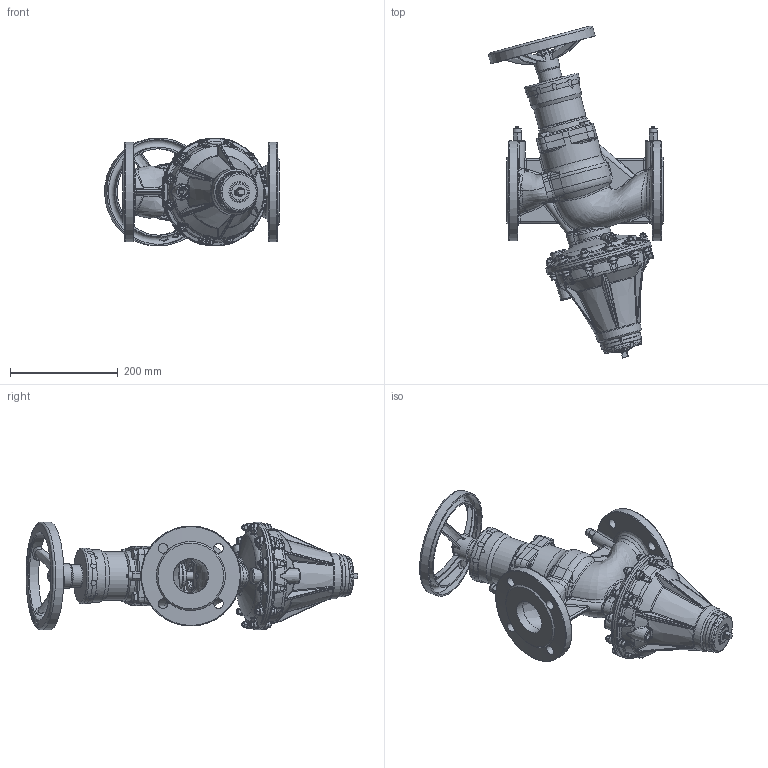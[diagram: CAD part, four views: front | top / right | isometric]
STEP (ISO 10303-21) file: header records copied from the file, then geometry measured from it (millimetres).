
FILE_DESCRIPTION (( 'STEP AP203' ), '1' );
FILE_NAME ('MH06516.STEP', '2013-01-17T16:17:11', ( 'luca.saino' ), ( 'Hewlett-Packard Company' ), 'SwSTEP 2.0', 'SolidWorks 2012', '' );
FILE_SCHEMA (( 'CONFIG_CONTROL_DESIGN' ));
Length unit declared in the file: millimetre
Products named in the file (1): MH06516
Bounding box: 323.7 x 614.82 x 199.79 mm (x, y, z)
Volume: 6414413 mm3; surface area: 607069.1 mm2
Topology: 1 solids, 73 shells, 3084 faces, 7247 edges, 4366 vertices
Faces by surface type: bspline 982, plane 853, cylinder 533, cone 461, torus 219, sphere 36
Full cylindrical faces by diameter (mm): 1.7 x2, 4 x1, 5 x5, 6 x24, 6.5 x14, 7 x12, 8 x1, 8.5 x3, 10 x12, 11 x12, 11.44 x2, 13.2 x1, 14 x1, 14.96 x1, 15 x5, 16 x2, 18 x8, 20 x1, 22 x1, 30 x1, 34.948 x1, 36 x1, 42 x1, 45 x1, 46 x1, 53 x1, 55 x1, 65 x2, 70 x1, 73 x1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
Entity records: 145084 total; most frequent: CARTESIAN_POINT 85139, ORIENTED_EDGE 13730, DIRECTION 10166, EDGE_CURVE 6865, AXIS2_PLACEMENT_3D 4288, VERTEX_POINT 4219, EDGE_LOOP 3428, FACE_OUTER_BOUND 3234
